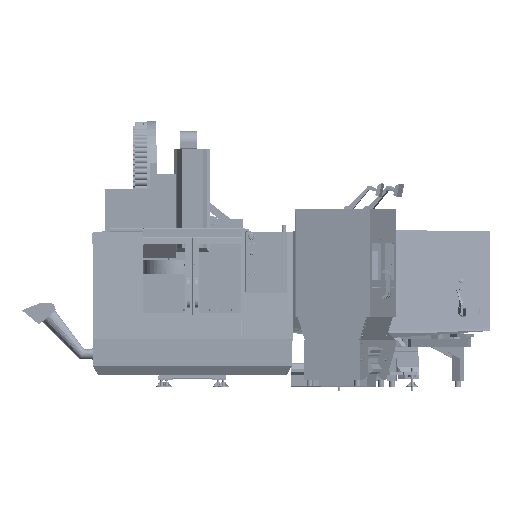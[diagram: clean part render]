
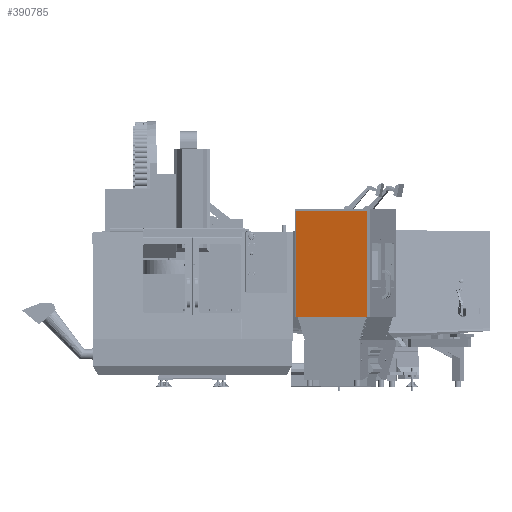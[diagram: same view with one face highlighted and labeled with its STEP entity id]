
A CAD part, top view. The second image highlights one B-rep face of the part: STEP entity #390785.
In plain terms, the highlighted planar face has unit normal (-0.242, 0, 0.97).
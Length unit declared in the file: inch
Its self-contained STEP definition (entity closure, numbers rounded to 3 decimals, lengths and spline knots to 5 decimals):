
#2974 = LINE ( 'NONE', #116229, #628698 ) ;
#13350 = EDGE_LOOP ( 'NONE', ( #316560, #288491, #778370, #542967 ) ) ;
#38403 = VERTEX_POINT ( 'NONE', #78841 ) ;
#78841 = CARTESIAN_POINT ( 'NONE',  ( -37.77353, 31.49583, 81.40518 ) ) ;
#116229 = CARTESIAN_POINT ( 'NONE',  ( -5.71438, 78.99583, 89.39842 ) ) ;
#173308 = CARTESIAN_POINT ( 'NONE',  ( -5.71438, 78.99583, 89.39842 ) ) ;
#203854 = EDGE_CURVE ( 'NONE', #551670, #38403, #433312, .T. ) ;
#240033 = PLANE ( 'NONE',  #405246 ) ;
#244437 = DIRECTION ( 'NONE',  ( -0.97, 0., -0.242 ) ) ;
#248577 = LINE ( 'NONE', #173308, #818553 ) ;
#263058 = VERTEX_POINT ( 'NONE', #794693 ) ;
#275383 = VECTOR ( 'NONE', #580213, 39.37008 ) ;
#288491 = ORIENTED_EDGE ( 'NONE', *, *, #699781, .F. ) ;
#311826 = CARTESIAN_POINT ( 'NONE',  ( -37.77353, 78.99583, 81.40518 ) ) ;
#316560 = ORIENTED_EDGE ( 'NONE', *, *, #408597, .F. ) ;
#332312 = VECTOR ( 'NONE', #491974, 39.37008 ) ;
#371563 = DIRECTION ( 'NONE',  ( 0., -1., 0. ) ) ;
#385380 = CARTESIAN_POINT ( 'NONE',  ( -37.77353, 78.99583, 81.40518 ) ) ;
#390785 = ADVANCED_FACE ( 'NONE', ( #428411 ), #240033, .T. ) ;
#405246 = AXIS2_PLACEMENT_3D ( 'NONE', #495427, #817854, #499578 ) ;
#408597 = EDGE_CURVE ( 'NONE', #786734, #38403, #647179, .T. ) ;
#428411 = FACE_OUTER_BOUND ( 'NONE', #13350, .T. ) ;
#433312 = LINE ( 'NONE', #311826, #332312 ) ;
#491974 = DIRECTION ( 'NONE',  ( 0., -1., 0. ) ) ;
#495427 = CARTESIAN_POINT ( 'NONE',  ( -5.71438, 78.99583, 89.39842 ) ) ;
#499578 = DIRECTION ( 'NONE',  ( 0.97, 0., 0.242 ) ) ;
#542967 = ORIENTED_EDGE ( 'NONE', *, *, #203854, .T. ) ;
#551670 = VERTEX_POINT ( 'NONE', #385380 ) ;
#580213 = DIRECTION ( 'NONE',  ( -0.97, 0., -0.242 ) ) ;
#588463 = CARTESIAN_POINT ( 'NONE',  ( -5.71438, 31.49583, 89.39842 ) ) ;
#628698 = VECTOR ( 'NONE', #371563, 39.37008 ) ;
#647179 = LINE ( 'NONE', #588463, #275383 ) ;
#699781 = EDGE_CURVE ( 'NONE', #263058, #786734, #2974, .T. ) ;
#729366 = EDGE_CURVE ( 'NONE', #263058, #551670, #248577, .T. ) ;
#778370 = ORIENTED_EDGE ( 'NONE', *, *, #729366, .T. ) ;
#778596 = CARTESIAN_POINT ( 'NONE',  ( -5.71438, 31.49583, 89.39842 ) ) ;
#786734 = VERTEX_POINT ( 'NONE', #778596 ) ;
#794693 = CARTESIAN_POINT ( 'NONE',  ( -5.71438, 78.99583, 89.39842 ) ) ;
#817854 = DIRECTION ( 'NONE',  ( -0.242, 0., 0.97 ) ) ;
#818553 = VECTOR ( 'NONE', #244437, 39.37008 ) ;
